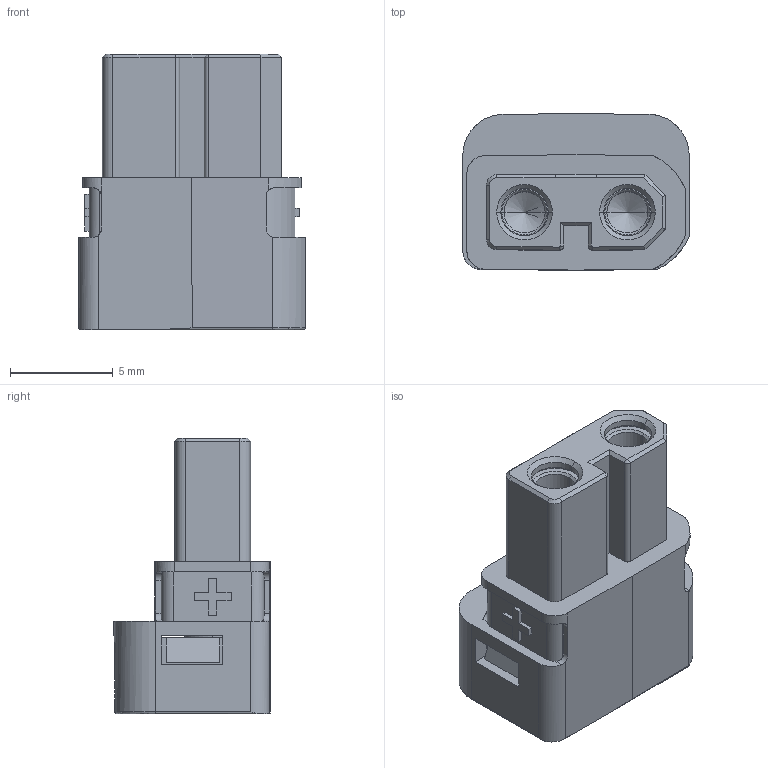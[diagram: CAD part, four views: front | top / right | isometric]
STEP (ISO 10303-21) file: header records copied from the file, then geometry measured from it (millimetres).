
FILE_DESCRIPTION (( 'STEP AP203' ), '1' );
FILE_NAME ('XT30ULW-F(DC48V)A¿î.STEP', '2023-10-09T07:54:36', ( '' ), ( '' ), 'SwSTEP 2.0', 'SolidWorks 2021', '' );
FILE_SCHEMA (( 'CONFIG_CONTROL_DESIGN' ));
Length unit declared in the file: millimetre
Products named in the file (1): XT30ULW-F(DC48V)A遴
Bounding box: 11 x 7.6 x 13.4 mm (x, y, z)
Volume: 515.1 mm3; surface area: 1003.6 mm2
Topology: 1 solids, 2 shells, 435 faces, 1189 edges, 768 vertices
Faces by surface type: plane 332, cylinder 73, cone 17, torus 9, sphere 3, bspline 1
Entity records: 14127 total; most frequent: CARTESIAN_POINT 3162, ORIENTED_EDGE 2362, DIRECTION 2088, EDGE_CURVE 1181, LINE 966, VECTOR 966, VERTEX_POINT 768, AXIS2_PLACEMENT_3D 561
